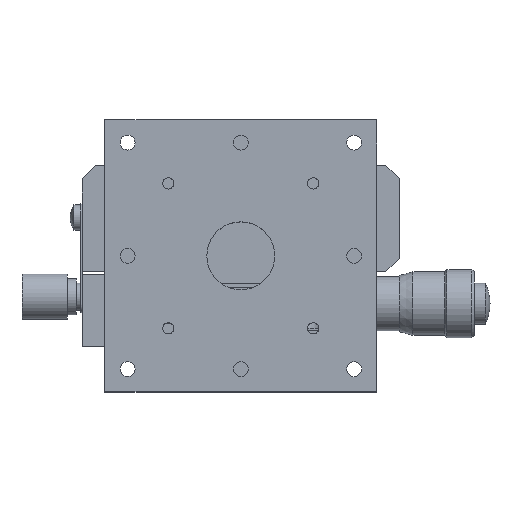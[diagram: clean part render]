
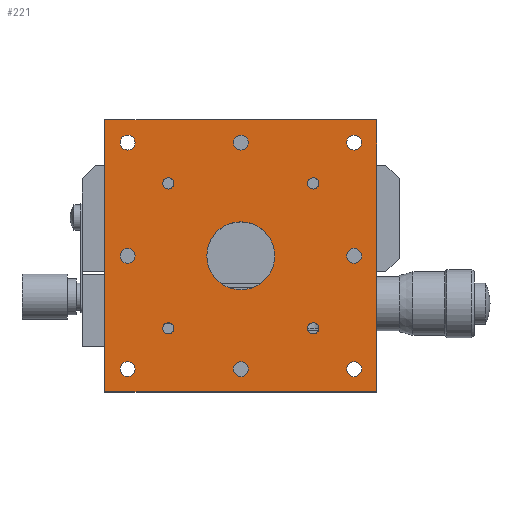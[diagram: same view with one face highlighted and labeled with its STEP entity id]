
A CAD part, top view. The second image highlights one B-rep face of the part: STEP entity #221.
In plain terms, the highlighted planar face has unit normal (0, 0, 1).
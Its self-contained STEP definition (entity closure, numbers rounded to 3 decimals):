
#221 = ADVANCED_FACE( '', ( #579, #580, #581, #582, #583, #584, #585, #586, #587, #588, #589, #590, #591, #592 ), #593, .T. );
#579 = FACE_BOUND( '', #1219, .T. );
#580 = FACE_BOUND( '', #1220, .T. );
#581 = FACE_BOUND( '', #1221, .T. );
#582 = FACE_BOUND( '', #1222, .T. );
#583 = FACE_BOUND( '', #1223, .T. );
#584 = FACE_BOUND( '', #1224, .T. );
#585 = FACE_BOUND( '', #1225, .T. );
#586 = FACE_BOUND( '', #1226, .T. );
#587 = FACE_BOUND( '', #1227, .T. );
#588 = FACE_BOUND( '', #1228, .T. );
#589 = FACE_BOUND( '', #1229, .T. );
#590 = FACE_BOUND( '', #1230, .T. );
#591 = FACE_OUTER_BOUND( '', #1231, .T. );
#592 = FACE_BOUND( '', #1232, .T. );
#593 = PLANE( '', #1233 );
#1219 = EDGE_LOOP( '', ( #1818 ) );
#1220 = EDGE_LOOP( '', ( #1819 ) );
#1221 = EDGE_LOOP( '', ( #1820 ) );
#1222 = EDGE_LOOP( '', ( #1821 ) );
#1223 = EDGE_LOOP( '', ( #1822 ) );
#1224 = EDGE_LOOP( '', ( #1823 ) );
#1225 = EDGE_LOOP( '', ( #1824 ) );
#1226 = EDGE_LOOP( '', ( #1825 ) );
#1227 = EDGE_LOOP( '', ( #1826 ) );
#1228 = EDGE_LOOP( '', ( #1827 ) );
#1229 = EDGE_LOOP( '', ( #1828 ) );
#1230 = EDGE_LOOP( '', ( #1829 ) );
#1231 = EDGE_LOOP( '', ( #1830, #1831, #1832, #1833 ) );
#1232 = EDGE_LOOP( '', ( #1834 ) );
#1233 = AXIS2_PLACEMENT_3D( '', #1835, #1836, #1837 );
#1818 = ORIENTED_EDGE( '', *, *, #3125, .T. );
#1819 = ORIENTED_EDGE( '', *, *, #3126, .T. );
#1820 = ORIENTED_EDGE( '', *, *, #3127, .T. );
#1821 = ORIENTED_EDGE( '', *, *, #3128, .T. );
#1822 = ORIENTED_EDGE( '', *, *, #3129, .T. );
#1823 = ORIENTED_EDGE( '', *, *, #3130, .T. );
#1824 = ORIENTED_EDGE( '', *, *, #3131, .T. );
#1825 = ORIENTED_EDGE( '', *, *, #3132, .T. );
#1826 = ORIENTED_EDGE( '', *, *, #3133, .T. );
#1827 = ORIENTED_EDGE( '', *, *, #3134, .T. );
#1828 = ORIENTED_EDGE( '', *, *, #3135, .T. );
#1829 = ORIENTED_EDGE( '', *, *, #3136, .T. );
#1830 = ORIENTED_EDGE( '', *, *, #3137, .F. );
#1831 = ORIENTED_EDGE( '', *, *, #3138, .F. );
#1832 = ORIENTED_EDGE( '', *, *, #3139, .T. );
#1833 = ORIENTED_EDGE( '', *, *, #3140, .F. );
#1834 = ORIENTED_EDGE( '', *, *, #3141, .T. );
#1835 = CARTESIAN_POINT( '', ( 0., 0., 40. ) );
#1836 = DIRECTION( '', ( 0., 0., 1. ) );
#1837 = DIRECTION( '', ( 1., 0., 0. ) );
#3125 = EDGE_CURVE( '', #3638, #3638, #3639, .T. );
#3126 = EDGE_CURVE( '', #3640, #3640, #3641, .T. );
#3127 = EDGE_CURVE( '', #3642, #3642, #3643, .T. );
#3128 = EDGE_CURVE( '', #3644, #3644, #3645, .T. );
#3129 = EDGE_CURVE( '', #3646, #3646, #3647, .T. );
#3130 = EDGE_CURVE( '', #3648, #3648, #3649, .T. );
#3131 = EDGE_CURVE( '', #3650, #3650, #3651, .T. );
#3132 = EDGE_CURVE( '', #3652, #3652, #3653, .T. );
#3133 = EDGE_CURVE( '', #3654, #3654, #3655, .T. );
#3134 = EDGE_CURVE( '', #3656, #3656, #3657, .T. );
#3135 = EDGE_CURVE( '', #3658, #3658, #3659, .T. );
#3136 = EDGE_CURVE( '', #3660, #3660, #3661, .T. );
#3137 = EDGE_CURVE( '', #3662, #3663, #3664, .T. );
#3138 = EDGE_CURVE( '', #3665, #3662, #3666, .T. );
#3139 = EDGE_CURVE( '', #3665, #3667, #3668, .T. );
#3140 = EDGE_CURVE( '', #3663, #3667, #3669, .T. );
#3141 = EDGE_CURVE( '', #3670, #3670, #3671, .T. );
#3638 = VERTEX_POINT( '', #4390 );
#3639 = CIRCLE( '', #4391, 1.25 );
#3640 = VERTEX_POINT( '', #4392 );
#3641 = CIRCLE( '', #4393, 1.25 );
#3642 = VERTEX_POINT( '', #4394 );
#3643 = CIRCLE( '', #4395, 1.25 );
#3644 = VERTEX_POINT( '', #4396 );
#3645 = CIRCLE( '', #4397, 1.25 );
#3646 = VERTEX_POINT( '', #4398 );
#3647 = CIRCLE( '', #4399, 1.65 );
#3648 = VERTEX_POINT( '', #4400 );
#3649 = CIRCLE( '', #4401, 1.65 );
#3650 = VERTEX_POINT( '', #4402 );
#3651 = CIRCLE( '', #4403, 1.65 );
#3652 = VERTEX_POINT( '', #4404 );
#3653 = CIRCLE( '', #4405, 1.65 );
#3654 = VERTEX_POINT( '', #4406 );
#3655 = CIRCLE( '', #4407, 1.65 );
#3656 = VERTEX_POINT( '', #4408 );
#3657 = CIRCLE( '', #4409, 1.65 );
#3658 = VERTEX_POINT( '', #4410 );
#3659 = CIRCLE( '', #4411, 1.65 );
#3660 = VERTEX_POINT( '', #4412 );
#3661 = CIRCLE( '', #4413, 1.65 );
#3662 = VERTEX_POINT( '', #4414 );
#3663 = VERTEX_POINT( '', #4415 );
#3664 = LINE( '', #4416, #4417 );
#3665 = VERTEX_POINT( '', #4418 );
#3666 = LINE( '', #4419, #4420 );
#3667 = VERTEX_POINT( '', #4421 );
#3668 = LINE( '', #4422, #4423 );
#3669 = LINE( '', #4424, #4425 );
#3670 = VERTEX_POINT( '', #4426 );
#3671 = CIRCLE( '', #4427, 7.5 );
#4390 = CARTESIAN_POINT( '', ( -16., 14.75, 40. ) );
#4391 = AXIS2_PLACEMENT_3D( '', #5330, #5331, #5332 );
#4392 = CARTESIAN_POINT( '', ( 16., 14.75, 40. ) );
#4393 = AXIS2_PLACEMENT_3D( '', #5333, #5334, #5335 );
#4394 = CARTESIAN_POINT( '', ( 16., -17.25, 40. ) );
#4395 = AXIS2_PLACEMENT_3D( '', #5336, #5337, #5338 );
#4396 = CARTESIAN_POINT( '', ( -16., -17.25, 40. ) );
#4397 = AXIS2_PLACEMENT_3D( '', #5339, #5340, #5341 );
#4398 = CARTESIAN_POINT( '', ( -25., -1.65, 40. ) );
#4399 = AXIS2_PLACEMENT_3D( '', #5342, #5343, #5344 );
#4400 = CARTESIAN_POINT( '', ( -25., 23.35, 40. ) );
#4401 = AXIS2_PLACEMENT_3D( '', #5345, #5346, #5347 );
#4402 = CARTESIAN_POINT( '', ( 0., 23.35, 40. ) );
#4403 = AXIS2_PLACEMENT_3D( '', #5348, #5349, #5350 );
#4404 = CARTESIAN_POINT( '', ( 25., 23.35, 40. ) );
#4405 = AXIS2_PLACEMENT_3D( '', #5351, #5352, #5353 );
#4406 = CARTESIAN_POINT( '', ( 25., -1.65, 40. ) );
#4407 = AXIS2_PLACEMENT_3D( '', #5354, #5355, #5356 );
#4408 = CARTESIAN_POINT( '', ( 25., -26.65, 40. ) );
#4409 = AXIS2_PLACEMENT_3D( '', #5357, #5358, #5359 );
#4410 = CARTESIAN_POINT( '', ( 0., -26.65, 40. ) );
#4411 = AXIS2_PLACEMENT_3D( '', #5360, #5361, #5362 );
#4412 = CARTESIAN_POINT( '', ( -25., -26.65, 40. ) );
#4413 = AXIS2_PLACEMENT_3D( '', #5363, #5364, #5365 );
#4414 = CARTESIAN_POINT( '', ( -30., 30., 40. ) );
#4415 = CARTESIAN_POINT( '', ( 30., 30., 40. ) );
#4416 = CARTESIAN_POINT( '', ( 0., 30., 40. ) );
#4417 = VECTOR( '', #5366, 1000. );
#4418 = CARTESIAN_POINT( '', ( -30., -30., 40. ) );
#4419 = CARTESIAN_POINT( '', ( -30., 0.25, 40. ) );
#4420 = VECTOR( '', #5367, 1000. );
#4421 = CARTESIAN_POINT( '', ( 30., -30., 40. ) );
#4422 = CARTESIAN_POINT( '', ( 0., -30., 40. ) );
#4423 = VECTOR( '', #5368, 1000. );
#4424 = CARTESIAN_POINT( '', ( 30., 0., 40. ) );
#4425 = VECTOR( '', #5369, 1000. );
#4426 = CARTESIAN_POINT( '', ( 7.5, 0., 40. ) );
#4427 = AXIS2_PLACEMENT_3D( '', #5370, #5371, #5372 );
#5330 = CARTESIAN_POINT( '', ( -16., 16., 40. ) );
#5331 = DIRECTION( '', ( 0., 0., -1. ) );
#5332 = DIRECTION( '', ( 0., -1., 0. ) );
#5333 = CARTESIAN_POINT( '', ( 16., 16., 40. ) );
#5334 = DIRECTION( '', ( 0., 0., -1. ) );
#5335 = DIRECTION( '', ( 0., -1., 0. ) );
#5336 = CARTESIAN_POINT( '', ( 16., -16., 40. ) );
#5337 = DIRECTION( '', ( 0., 0., -1. ) );
#5338 = DIRECTION( '', ( 0., -1., 0. ) );
#5339 = CARTESIAN_POINT( '', ( -16., -16., 40. ) );
#5340 = DIRECTION( '', ( 0., 0., -1. ) );
#5341 = DIRECTION( '', ( 0., -1., 0. ) );
#5342 = CARTESIAN_POINT( '', ( -25., 0., 40. ) );
#5343 = DIRECTION( '', ( 0., 0., -1. ) );
#5344 = DIRECTION( '', ( 0., -1., 0. ) );
#5345 = CARTESIAN_POINT( '', ( -25., 25., 40. ) );
#5346 = DIRECTION( '', ( 0., 0., -1. ) );
#5347 = DIRECTION( '', ( 0., -1., 0. ) );
#5348 = CARTESIAN_POINT( '', ( 0., 25., 40. ) );
#5349 = DIRECTION( '', ( 0., 0., -1. ) );
#5350 = DIRECTION( '', ( 0., -1., 0. ) );
#5351 = CARTESIAN_POINT( '', ( 25., 25., 40. ) );
#5352 = DIRECTION( '', ( 0., 0., -1. ) );
#5353 = DIRECTION( '', ( 0., -1., 0. ) );
#5354 = CARTESIAN_POINT( '', ( 25., 0., 40. ) );
#5355 = DIRECTION( '', ( 0., 0., -1. ) );
#5356 = DIRECTION( '', ( 0., -1., 0. ) );
#5357 = CARTESIAN_POINT( '', ( 25., -25., 40. ) );
#5358 = DIRECTION( '', ( 0., 0., -1. ) );
#5359 = DIRECTION( '', ( 0., -1., 0. ) );
#5360 = CARTESIAN_POINT( '', ( 0., -25., 40. ) );
#5361 = DIRECTION( '', ( 0., 0., -1. ) );
#5362 = DIRECTION( '', ( 0., -1., 0. ) );
#5363 = CARTESIAN_POINT( '', ( -25., -25., 40. ) );
#5364 = DIRECTION( '', ( 0., 0., -1. ) );
#5365 = DIRECTION( '', ( 0., -1., 0. ) );
#5366 = DIRECTION( '', ( 1., 0., 0. ) );
#5367 = DIRECTION( '', ( 0., 1., 0. ) );
#5368 = DIRECTION( '', ( 1., 0., 0. ) );
#5369 = DIRECTION( '', ( 0., -1., 0. ) );
#5370 = CARTESIAN_POINT( '', ( 0., 0., 40. ) );
#5371 = DIRECTION( '', ( 0., 0., -1. ) );
#5372 = DIRECTION( '', ( 1., 0., 0. ) );
